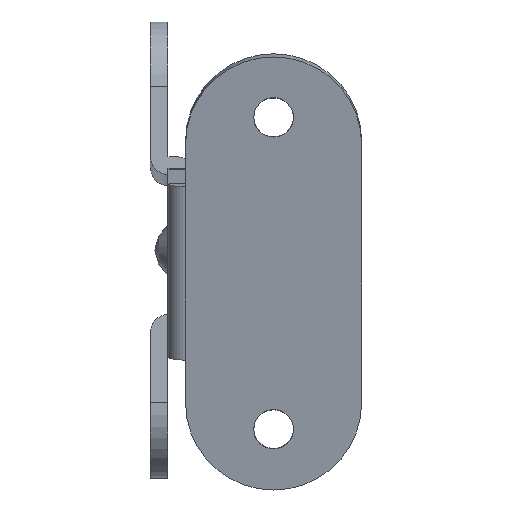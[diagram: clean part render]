
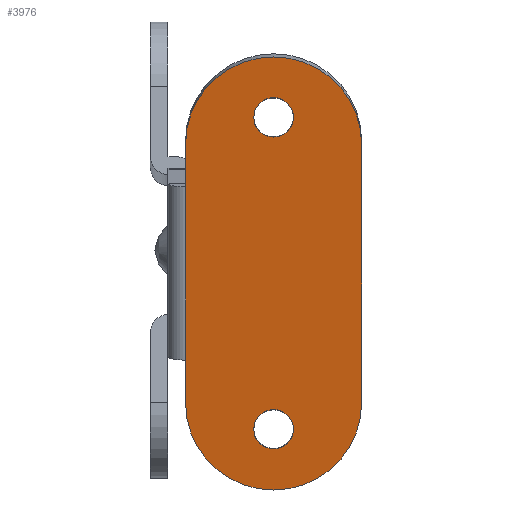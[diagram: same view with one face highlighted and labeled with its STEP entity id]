
A CAD part, left-side view. The second image highlights one B-rep face of the part: STEP entity #3976.
In plain terms, the highlighted planar face has unit normal (-0.984, 0, -0.177) as drawn and (0, -1, 0) by its records, which use the part's own axes.
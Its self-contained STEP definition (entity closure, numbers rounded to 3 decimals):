
#3702=CARTESIAN_POINT('',(-18.0,0.,2.25));
#3703=VERTEX_POINT('',#3702);
#3704=CARTESIAN_POINT('',(-18.0,0.,0.));
#3705=DIRECTION('',(0.0,-1.0,0.0));
#3706=DIRECTION('',(0.0,0.0,1.0));
#3707=AXIS2_PLACEMENT_3D('',#3704,#3705,#3706);
#3708=CIRCLE('',#3707,2.25);
#3709=EDGE_CURVE('',#3703,#3703,#3708,.T.);
#3750=CARTESIAN_POINT('',(18.0,0.0,2.25));
#3751=VERTEX_POINT('',#3750);
#3752=CARTESIAN_POINT('',(18.0,0.0,0.0));
#3753=DIRECTION('',(0.0,1.0,0.0));
#3754=DIRECTION('',(0.0,0.0,1.0));
#3755=AXIS2_PLACEMENT_3D('',#3752,#3753,#3754);
#3756=CIRCLE('',#3755,2.25);
#3757=EDGE_CURVE('',#3751,#3751,#3756,.T.);
#3798=CARTESIAN_POINT('',(-15.,0.,10.));
#3799=VERTEX_POINT('',#3798);
#3800=CARTESIAN_POINT('',(15.0,0.0,10.0));
#3801=VERTEX_POINT('',#3800);
#3802=CARTESIAN_POINT('',(-15.,0.,10.));
#3803=DIRECTION('',(1.0,0.0,0.0));
#3804=VECTOR('',#3803,30.);
#3805=LINE('',#3802,#3804);
#3806=EDGE_CURVE('',#3799,#3801,#3805,.T.);
#3838=CARTESIAN_POINT('',(15.,0.0,-10.));
#3839=VERTEX_POINT('',#3838);
#3840=CARTESIAN_POINT('',(15.0,0.0,0.0));
#3841=DIRECTION('',(0.0,1.0,0.0));
#3842=DIRECTION('',(0.0,0.0,1.0));
#3843=AXIS2_PLACEMENT_3D('',#3840,#3841,#3842);
#3844=CIRCLE('',#3843,10.);
#3845=EDGE_CURVE('',#3801,#3839,#3844,.T.);
#3871=CARTESIAN_POINT('',(10.,0.0,-10.));
#3872=VERTEX_POINT('',#3871);
#3873=CARTESIAN_POINT('',(15.,0.0,-10.));
#3874=DIRECTION('',(-1.0,0.0,0.0));
#3875=VECTOR('',#3874,5.);
#3876=LINE('',#3873,#3875);
#3877=EDGE_CURVE('',#3839,#3872,#3876,.T.);
#3937=CARTESIAN_POINT('',(15.0,0.0,0.0));
#3938=DIRECTION('',(0.0,1.0,0.0));
#3939=DIRECTION('',(0.0,0.0,1.0));
#3940=AXIS2_PLACEMENT_3D('',#3937,#3938,#3939);
#3941=PLANE('',#3940);
#3942=ORIENTED_EDGE('',*,*,#3806,.F.);
#3943=CARTESIAN_POINT('',(-15.,0.,-10.));
#3944=VERTEX_POINT('',#3943);
#3945=CARTESIAN_POINT('',(-15.0,0.,0.));
#3946=DIRECTION('',(0.0,-1.0,0.0));
#3947=DIRECTION('',(0.0,0.0,1.0));
#3948=AXIS2_PLACEMENT_3D('',#3945,#3946,#3947);
#3949=CIRCLE('',#3948,10.);
#3950=EDGE_CURVE('',#3799,#3944,#3949,.T.);
#3951=ORIENTED_EDGE('',*,*,#3950,.T.);
#3952=CARTESIAN_POINT('',(-10.,0.,-10.));
#3953=VERTEX_POINT('',#3952);
#3954=CARTESIAN_POINT('',(-15.,0.,-10.));
#3955=DIRECTION('',(1.0,0.0,0.0));
#3956=VECTOR('',#3955,5.0);
#3957=LINE('',#3954,#3956);
#3958=EDGE_CURVE('',#3944,#3953,#3957,.T.);
#3959=ORIENTED_EDGE('',*,*,#3958,.T.);
#3960=CARTESIAN_POINT('',(10.,0.0,-10.));
#3961=DIRECTION('',(-1.0,0.0,0.0));
#3962=VECTOR('',#3961,20.0);
#3963=LINE('',#3960,#3962);
#3964=EDGE_CURVE('',#3872,#3953,#3963,.T.);
#3965=ORIENTED_EDGE('',*,*,#3964,.F.);
#3966=ORIENTED_EDGE('',*,*,#3877,.F.);
#3967=ORIENTED_EDGE('',*,*,#3845,.F.);
#3968=EDGE_LOOP('',(#3942,#3951,#3959,#3965,#3966,#3967));
#3969=FACE_OUTER_BOUND('',#3968,.T.);
#3970=ORIENTED_EDGE('',*,*,#3757,.T.);
#3971=EDGE_LOOP('',(#3970));
#3972=FACE_BOUND('',#3971,.T.);
#3973=ORIENTED_EDGE('',*,*,#3709,.F.);
#3974=EDGE_LOOP('',(#3973));
#3975=FACE_BOUND('',#3974,.T.);
#3976=ADVANCED_FACE('',(#3969,#3972,#3975),#3941,.F.);
